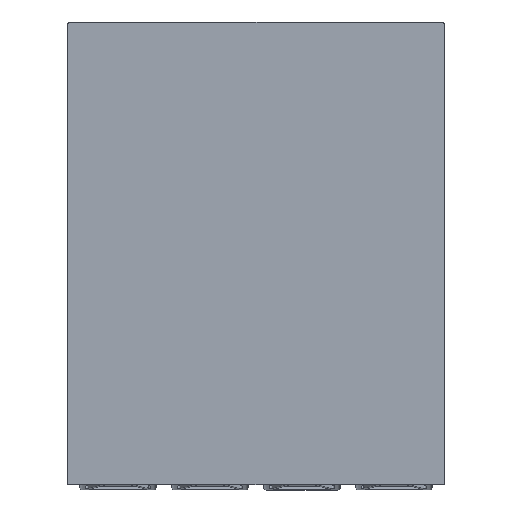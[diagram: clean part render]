
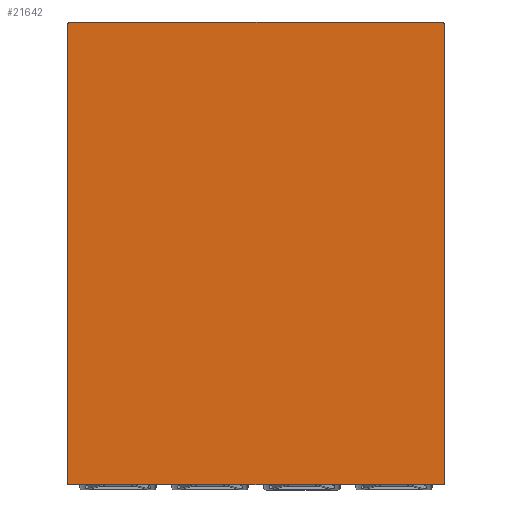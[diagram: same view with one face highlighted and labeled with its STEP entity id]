
A CAD part, top view. The second image highlights one B-rep face of the part: STEP entity #21642.
In plain terms, the highlighted planar face has unit normal (0, 0, 1).
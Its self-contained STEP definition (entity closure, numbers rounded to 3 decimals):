
#723=PLANE('',#23273);
#1625=FACE_OUTER_BOUND('',#2833,.T.);
#2833=EDGE_LOOP('',(#17056,#17057,#17058,#17059,#17060,#17061));
#4443=LINE('',#35149,#6612);
#4485=LINE('',#35229,#6654);
#4487=LINE('',#35232,#6656);
#4488=LINE('',#35233,#6657);
#6612=VECTOR('',#27098,10.);
#6654=VECTOR('',#27162,10.);
#6656=VECTOR('',#27166,10.);
#6657=VECTOR('',#27167,10.);
#8352=CIRCLE('',#23254,1.);
#8354=CIRCLE('',#23260,1.);
#9785=VERTEX_POINT('',#35083);
#9786=VERTEX_POINT('',#35085);
#9794=VERTEX_POINT('',#35140);
#9795=VERTEX_POINT('',#35142);
#9797=VERTEX_POINT('',#35148);
#9824=VERTEX_POINT('',#35228);
#12399=EDGE_CURVE('',#9785,#9786,#8352,.T.);
#12415=EDGE_CURVE('',#9794,#9795,#8354,.T.);
#12418=EDGE_CURVE('',#9797,#9795,#4443,.T.);
#12460=EDGE_CURVE('',#9824,#9797,#4485,.F.);
#12462=EDGE_CURVE('',#9785,#9824,#4487,.T.);
#12463=EDGE_CURVE('',#9794,#9786,#4488,.T.);
#17056=ORIENTED_EDGE('',*,*,#12399,.F.);
#17057=ORIENTED_EDGE('',*,*,#12462,.T.);
#17058=ORIENTED_EDGE('',*,*,#12460,.T.);
#17059=ORIENTED_EDGE('',*,*,#12418,.T.);
#17060=ORIENTED_EDGE('',*,*,#12415,.F.);
#17061=ORIENTED_EDGE('',*,*,#12463,.T.);
#21642=ADVANCED_FACE('',(#1625),#723,.T.);
#23254=AXIS2_PLACEMENT_3D('',#35086,#27068,#27069);
#23260=AXIS2_PLACEMENT_3D('',#35143,#27092,#27093);
#23273=AXIS2_PLACEMENT_3D('',#35231,#27164,#27165);
#27068=DIRECTION('center_axis',(0.,0.,-1.));
#27069=DIRECTION('ref_axis',(-0.707,0.707,0.));
#27092=DIRECTION('center_axis',(0.,0.,-1.));
#27093=DIRECTION('ref_axis',(0.707,0.707,0.));
#27098=DIRECTION('',(0.,1.,0.));
#27162=DIRECTION('',(-1.,0.,0.));
#27164=DIRECTION('center_axis',(0.,0.,1.));
#27165=DIRECTION('ref_axis',(1.,0.,0.));
#27166=DIRECTION('',(0.,-1.,0.));
#27167=DIRECTION('',(-1.,0.,0.));
#35083=CARTESIAN_POINT('',(-97.087,36.805,12.7));
#35085=CARTESIAN_POINT('',(-96.087,37.805,12.7));
#35086=CARTESIAN_POINT('Origin',(-96.087,36.805,12.7));
#35140=CARTESIAN_POINT('',(24.913,37.805,12.7));
#35142=CARTESIAN_POINT('',(25.913,36.805,12.7));
#35143=CARTESIAN_POINT('Origin',(24.913,36.805,12.7));
#35148=CARTESIAN_POINT('',(25.913,-113.185,12.7));
#35149=CARTESIAN_POINT('',(25.913,-113.085,12.7));
#35228=CARTESIAN_POINT('',(-97.087,-113.185,12.7));
#35229=CARTESIAN_POINT('',(-66.337,-113.185,12.7));
#35231=CARTESIAN_POINT('Origin',(-35.587,-37.64,12.7));
#35232=CARTESIAN_POINT('',(-97.087,37.805,12.7));
#35233=CARTESIAN_POINT('',(25.913,37.805,12.7));
